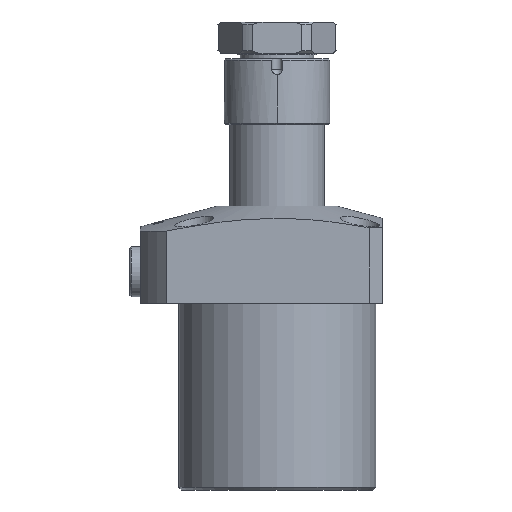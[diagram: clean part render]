
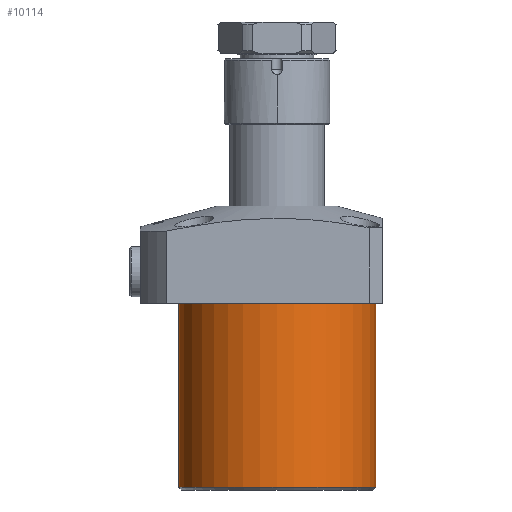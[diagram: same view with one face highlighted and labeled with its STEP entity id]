
A CAD part, front view. The second image highlights one B-rep face of the part: STEP entity #10114.
In plain terms, the highlighted cylindrical face has radius 37.5 mm (diameter 75 mm), a partial arc.
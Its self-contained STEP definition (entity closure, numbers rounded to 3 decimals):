
#26 = ORIENTED_EDGE ( 'NONE', *, *, #2813, .T. ) ;
#309 = AXIS2_PLACEMENT_3D ( 'NONE', #9631, #2172, #10872 ) ;
#674 = VERTEX_POINT ( 'NONE', #10249 ) ;
#1374 = VECTOR ( 'NONE', #10185, 1000. ) ;
#2172 = DIRECTION ( 'NONE',  ( 0., 0., -1. ) ) ;
#2813 = EDGE_CURVE ( 'NONE', #674, #15818, #15666, .T. ) ;
#3011 = AXIS2_PLACEMENT_3D ( 'NONE', #11120, #3696, #12363 ) ;
#3203 = ORIENTED_EDGE ( 'NONE', *, *, #10646, .T. ) ;
#3696 = DIRECTION ( 'NONE',  ( 0., 0., 1. ) ) ;
#4022 = CARTESIAN_POINT ( 'NONE',  ( -37.5, 0., -71. ) ) ;
#4273 = EDGE_LOOP ( 'NONE', ( #15820, #3203, #9436, #26 ) ) ;
#4401 = CARTESIAN_POINT ( 'NONE',  ( 37.5, 0., -70. ) ) ;
#4527 = VERTEX_POINT ( 'NONE', #4401 ) ;
#4985 = AXIS2_PLACEMENT_3D ( 'NONE', #15468, #14546, #7079 ) ;
#5858 = CARTESIAN_POINT ( 'NONE',  ( 37.5, 0., -71. ) ) ;
#7079 = DIRECTION ( 'NONE',  ( 1., 0., 0. ) ) ;
#7157 = DIRECTION ( 'NONE',  ( 0., 0., 1. ) ) ;
#7333 = CARTESIAN_POINT ( 'NONE',  ( -37.5, 0., -70. ) ) ;
#7574 = LINE ( 'NONE', #5858, #10881 ) ;
#7996 = LINE ( 'NONE', #4022, #1374 ) ;
#8059 = CARTESIAN_POINT ( 'NONE',  ( -37.5, 0., 0. ) ) ;
#8426 = EDGE_CURVE ( 'NONE', #9878, #15818, #7996, .T. ) ;
#9436 = ORIENTED_EDGE ( 'NONE', *, *, #11638, .T. ) ;
#9631 = CARTESIAN_POINT ( 'NONE',  ( 0., 0., 0. ) ) ;
#9878 = VERTEX_POINT ( 'NONE', #7333 ) ;
#10114 = ADVANCED_FACE ( 'NONE', ( #15206 ), #14823, .T. ) ;
#10185 = DIRECTION ( 'NONE',  ( 0., 0., 1. ) ) ;
#10249 = CARTESIAN_POINT ( 'NONE',  ( 37.5, 0., 0. ) ) ;
#10646 = EDGE_CURVE ( 'NONE', #9878, #4527, #11283, .T. ) ;
#10872 = DIRECTION ( 'NONE',  ( -1., 0., 0. ) ) ;
#10881 = VECTOR ( 'NONE', #7157, 1000. ) ;
#11120 = CARTESIAN_POINT ( 'NONE',  ( 0., 0., -70. ) ) ;
#11283 = CIRCLE ( 'NONE', #3011, 37.5 ) ;
#11638 = EDGE_CURVE ( 'NONE', #4527, #674, #7574, .T. ) ;
#12363 = DIRECTION ( 'NONE',  ( -1., 0., 0. ) ) ;
#14546 = DIRECTION ( 'NONE',  ( 0., 0., 1. ) ) ;
#14823 = CYLINDRICAL_SURFACE ( 'NONE', #4985, 37.5 ) ;
#15206 = FACE_OUTER_BOUND ( 'NONE', #4273, .T. ) ;
#15468 = CARTESIAN_POINT ( 'NONE',  ( 0., 0., -71. ) ) ;
#15666 = CIRCLE ( 'NONE', #309, 37.5 ) ;
#15818 = VERTEX_POINT ( 'NONE', #8059 ) ;
#15820 = ORIENTED_EDGE ( 'NONE', *, *, #8426, .F. ) ;
